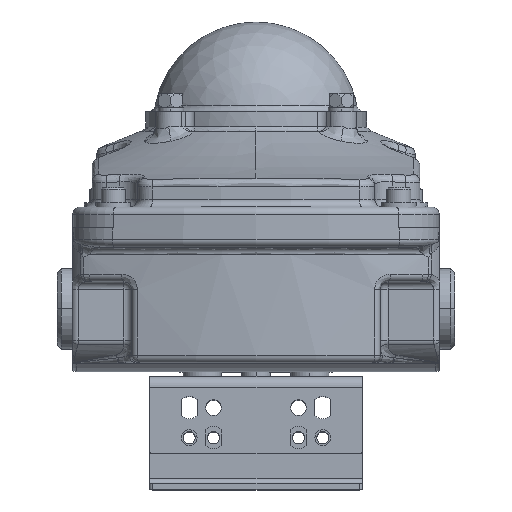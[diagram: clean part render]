
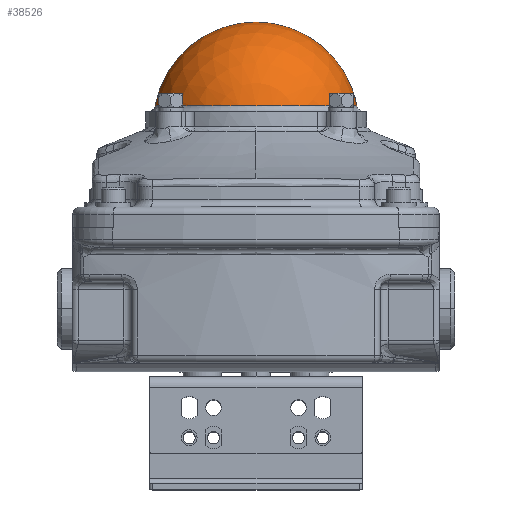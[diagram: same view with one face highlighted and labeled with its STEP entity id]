
A CAD part, top view. The second image highlights one B-rep face of the part: STEP entity #38526.
In plain terms, the highlighted spherical face has radius 33.782 mm.
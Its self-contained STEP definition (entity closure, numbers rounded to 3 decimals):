
#2635 = DIRECTION ( 'NONE',  ( 0., 0., -1. ) ) ;
#2805 = CIRCLE ( 'NONE', #6800, 33.213 ) ;
#3122 = CIRCLE ( 'NONE', #5693, 33.782 ) ;
#5693 = AXIS2_PLACEMENT_3D ( 'NONE', #30409, #49155, #29736 ) ;
#6103 = DIRECTION ( 'NONE',  ( 0., 1., 0. ) ) ;
#6120 = VERTEX_POINT ( 'NONE', #18640 ) ;
#6800 = AXIS2_PLACEMENT_3D ( 'NONE', #8089, #42832, #46698 ) ;
#7921 = VERTEX_POINT ( 'NONE', #29743 ) ;
#8089 = CARTESIAN_POINT ( 'NONE',  ( 0., 119.583, 0. ) ) ;
#10185 = EDGE_CURVE ( 'NONE', #20212, #7921, #2805, .T. ) ;
#11747 = ORIENTED_EDGE ( 'NONE', *, *, #10185, .T. ) ;
#13153 = ORIENTED_EDGE ( 'NONE', *, *, #26434, .F. ) ;
#18099 = DIRECTION ( 'NONE',  ( -1., 0., 0. ) ) ;
#18640 = CARTESIAN_POINT ( 'NONE',  ( 0., 147.193, 0. ) ) ;
#19015 = CIRCLE ( 'NONE', #35307, 33.782 ) ;
#20212 = VERTEX_POINT ( 'NONE', #41015 ) ;
#26434 = EDGE_CURVE ( 'NONE', #20212, #6120, #19015, .T. ) ;
#29148 = CARTESIAN_POINT ( 'NONE',  ( 0., 113.411, 0. ) ) ;
#29736 = DIRECTION ( 'NONE',  ( 0., -1., 0. ) ) ;
#29743 = CARTESIAN_POINT ( 'NONE',  ( 33.213, 119.583, 0. ) ) ;
#30409 = CARTESIAN_POINT ( 'NONE',  ( 0., 113.411, 0. ) ) ;
#31869 = EDGE_CURVE ( 'NONE', #7921, #6120, #3122, .T. ) ;
#33357 = DIRECTION ( 'NONE',  ( 0., 0., 1. ) ) ;
#33967 = AXIS2_PLACEMENT_3D ( 'NONE', #35877, #33357, #18099 ) ;
#35307 = AXIS2_PLACEMENT_3D ( 'NONE', #29148, #2635, #6103 ) ;
#35877 = CARTESIAN_POINT ( 'NONE',  ( 0., 113.411, 0. ) ) ;
#38526 = ADVANCED_FACE ( 'NONE', ( #42461 ), #43083, .T. ) ;
#41015 = CARTESIAN_POINT ( 'NONE',  ( -33.213, 119.583, 0. ) ) ;
#42461 = FACE_OUTER_BOUND ( 'NONE', #43782, .T. ) ;
#42832 = DIRECTION ( 'NONE',  ( 0., 1., 0. ) ) ;
#43083 = SPHERICAL_SURFACE ( 'NONE', #33967, 33.782 ) ;
#43782 = EDGE_LOOP ( 'NONE', ( #11747, #46718, #13153 ) ) ;
#46698 = DIRECTION ( 'NONE',  ( 1., 0., 0. ) ) ;
#46718 = ORIENTED_EDGE ( 'NONE', *, *, #31869, .T. ) ;
#49155 = DIRECTION ( 'NONE',  ( 0., 0., 1. ) ) ;
